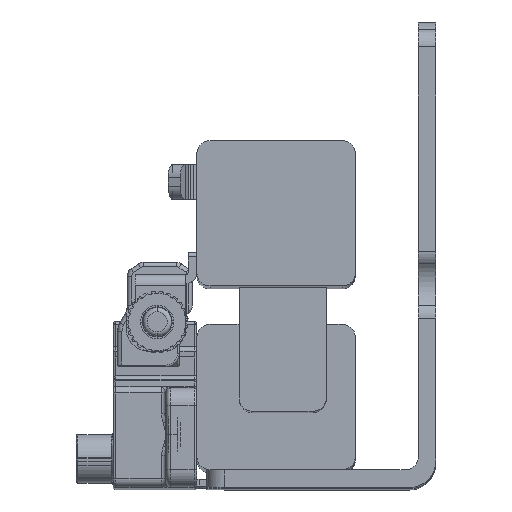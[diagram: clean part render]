
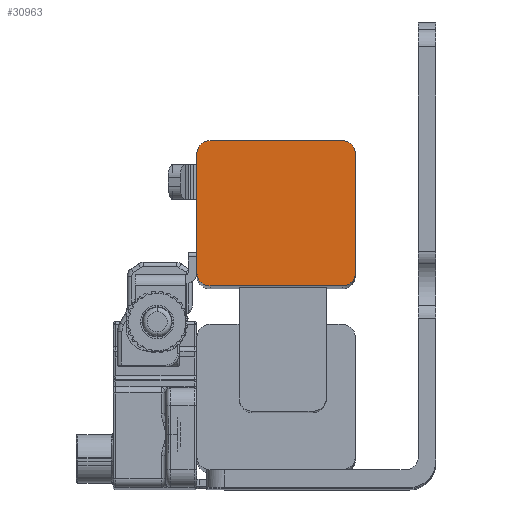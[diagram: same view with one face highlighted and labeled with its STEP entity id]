
A CAD part, top view. The second image highlights one B-rep face of the part: STEP entity #30963.
In plain terms, the highlighted planar face has unit normal (0, 0, 1).
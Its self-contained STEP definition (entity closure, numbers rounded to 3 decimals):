
#594 = AXIS2_PLACEMENT_3D ( 'NONE', #15191, #25261, #9622 ) ;
#1726 = DIRECTION ( 'NONE',  ( 0., -1., 0. ) ) ;
#2050 = DIRECTION ( 'NONE',  ( 0., 0., 1. ) ) ;
#2400 = CARTESIAN_POINT ( 'NONE',  ( -9., 8.25, 193.1 ) ) ;
#4253 = DIRECTION ( 'NONE',  ( 0., 0., 1. ) ) ;
#4868 = DIRECTION ( 'NONE',  ( -1., 0., 0. ) ) ;
#5559 = DIRECTION ( 'NONE',  ( 0., 0., 1. ) ) ;
#8419 = EDGE_CURVE ( 'NONE', #9126, #65687, #49817, .T. ) ;
#8676 = EDGE_CURVE ( 'NONE', #65687, #50032, #60583, .T. ) ;
#9099 = CARTESIAN_POINT ( 'NONE',  ( 7.5, -8.25, 193.1 ) ) ;
#9126 = VERTEX_POINT ( 'NONE', #32093 ) ;
#9437 = DIRECTION ( 'NONE',  ( 0., 0., 1. ) ) ;
#9544 = VECTOR ( 'NONE', #42628, 1000. ) ;
#9622 = DIRECTION ( 'NONE',  ( 1., 0., 0. ) ) ;
#10638 = EDGE_CURVE ( 'NONE', #13856, #9126, #26342, .T. ) ;
#12501 = CARTESIAN_POINT ( 'NONE',  ( -7.5, -6.75, 193.1 ) ) ;
#13856 = VERTEX_POINT ( 'NONE', #30376 ) ;
#15191 = CARTESIAN_POINT ( 'NONE',  ( -7.51, 6.76, 193.1 ) ) ;
#16344 = EDGE_CURVE ( 'NONE', #21392, #26590, #20881, .T. ) ;
#16444 = EDGE_CURVE ( 'NONE', #17203, #13856, #33343, .T. ) ;
#17036 = CARTESIAN_POINT ( 'NONE',  ( 7.5, 6.75, 193.1 ) ) ;
#17142 = CIRCLE ( 'NONE', #59283, 1.5 ) ;
#17203 = VERTEX_POINT ( 'NONE', #20239 ) ;
#20239 = CARTESIAN_POINT ( 'NONE',  ( -9., 6.75, 193.1 ) ) ;
#20881 = LINE ( 'NONE', #57665, #65508 ) ;
#21091 = PLANE ( 'NONE',  #594 ) ;
#21392 = VERTEX_POINT ( 'NONE', #51142 ) ;
#21901 = DIRECTION ( 'NONE',  ( 0., 1., 0. ) ) ;
#22032 = CARTESIAN_POINT ( 'NONE',  ( 9., -6.75, 193.1 ) ) ;
#22156 = ORIENTED_EDGE ( 'NONE', *, *, #16344, .T. ) ;
#23250 = DIRECTION ( 'NONE',  ( 1., 0., 0. ) ) ;
#25261 = DIRECTION ( 'NONE',  ( 0., 0., 1. ) ) ;
#26131 = AXIS2_PLACEMENT_3D ( 'NONE', #17036, #5559, #38199 ) ;
#26342 = CIRCLE ( 'NONE', #52989, 1.5 ) ;
#26590 = VERTEX_POINT ( 'NONE', #51022 ) ;
#28902 = VECTOR ( 'NONE', #1726, 1000. ) ;
#30376 = CARTESIAN_POINT ( 'NONE',  ( -9., -6.75, 193.1 ) ) ;
#30963 = ADVANCED_FACE ( 'NONE', ( #36705 ), #21091, .T. ) ;
#32093 = CARTESIAN_POINT ( 'NONE',  ( -7.5, -8.25, 193.1 ) ) ;
#33343 = LINE ( 'NONE', #2400, #28902 ) ;
#33986 = AXIS2_PLACEMENT_3D ( 'NONE', #41419, #4253, #45293 ) ;
#36705 = FACE_OUTER_BOUND ( 'NONE', #62947, .T. ) ;
#37041 = VECTOR ( 'NONE', #21901, 1000. ) ;
#38041 = EDGE_CURVE ( 'NONE', #26590, #17203, #17142, .T. ) ;
#38199 = DIRECTION ( 'NONE',  ( -1., 0., 0. ) ) ;
#38449 = ORIENTED_EDGE ( 'NONE', *, *, #8676, .T. ) ;
#39378 = CARTESIAN_POINT ( 'NONE',  ( -7.5, -8.25, 193.1 ) ) ;
#40055 = ORIENTED_EDGE ( 'NONE', *, *, #38041, .T. ) ;
#41419 = CARTESIAN_POINT ( 'NONE',  ( 7.5, -6.75, 193.1 ) ) ;
#42628 = DIRECTION ( 'NONE',  ( 1., 0., 0. ) ) ;
#42989 = VERTEX_POINT ( 'NONE', #64176 ) ;
#43475 = ORIENTED_EDGE ( 'NONE', *, *, #62093, .T. ) ;
#45293 = DIRECTION ( 'NONE',  ( 1., 0., 0. ) ) ;
#45550 = ORIENTED_EDGE ( 'NONE', *, *, #8419, .T. ) ;
#49051 = ORIENTED_EDGE ( 'NONE', *, *, #10638, .T. ) ;
#49454 = CIRCLE ( 'NONE', #26131, 1.5 ) ;
#49474 = ORIENTED_EDGE ( 'NONE', *, *, #65104, .T. ) ;
#49817 = LINE ( 'NONE', #39378, #9544 ) ;
#50032 = VERTEX_POINT ( 'NONE', #22032 ) ;
#51022 = CARTESIAN_POINT ( 'NONE',  ( -7.5, 8.25, 193.1 ) ) ;
#51142 = CARTESIAN_POINT ( 'NONE',  ( 7.5, 8.25, 193.1 ) ) ;
#51798 = DIRECTION ( 'NONE',  ( 1., 0., 0. ) ) ;
#52989 = AXIS2_PLACEMENT_3D ( 'NONE', #12501, #2050, #23250 ) ;
#53490 = CARTESIAN_POINT ( 'NONE',  ( 9., 6.75, 193.1 ) ) ;
#56659 = CARTESIAN_POINT ( 'NONE',  ( -7.5, 6.75, 193.1 ) ) ;
#57665 = CARTESIAN_POINT ( 'NONE',  ( -9., 8.25, 193.1 ) ) ;
#58495 = ORIENTED_EDGE ( 'NONE', *, *, #16444, .T. ) ;
#59283 = AXIS2_PLACEMENT_3D ( 'NONE', #56659, #9437, #51798 ) ;
#59702 = LINE ( 'NONE', #53490, #37041 ) ;
#60583 = CIRCLE ( 'NONE', #33986, 1.5 ) ;
#62093 = EDGE_CURVE ( 'NONE', #50032, #42989, #59702, .T. ) ;
#62947 = EDGE_LOOP ( 'NONE', ( #58495, #49051, #45550, #38449, #43475, #49474, #22156, #40055 ) ) ;
#64176 = CARTESIAN_POINT ( 'NONE',  ( 9., 6.75, 193.1 ) ) ;
#65104 = EDGE_CURVE ( 'NONE', #42989, #21392, #49454, .T. ) ;
#65508 = VECTOR ( 'NONE', #4868, 1000. ) ;
#65687 = VERTEX_POINT ( 'NONE', #9099 ) ;
